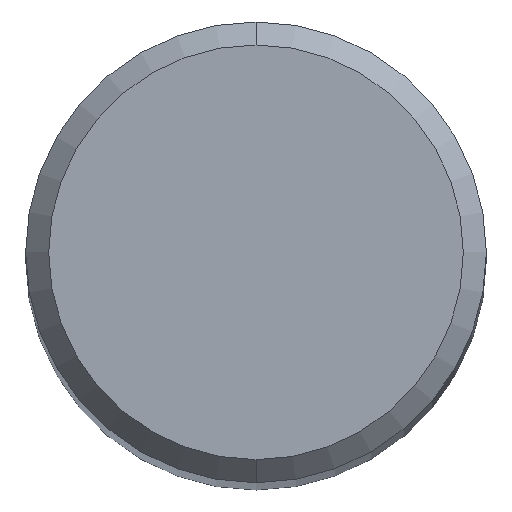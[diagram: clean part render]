
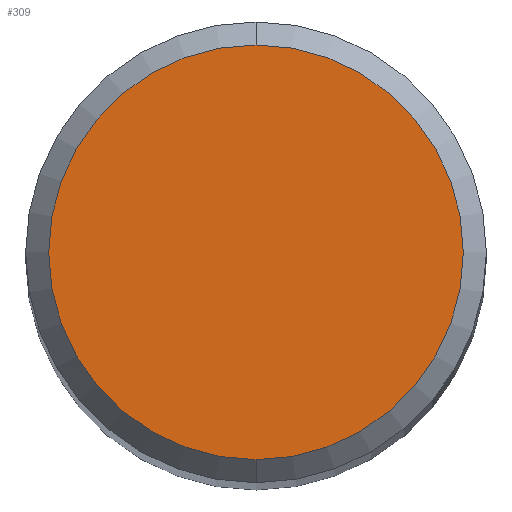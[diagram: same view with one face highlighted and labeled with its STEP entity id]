
A CAD part, top view. The second image highlights one B-rep face of the part: STEP entity #309.
In plain terms, the highlighted planar face has unit normal (0, 0, 1).
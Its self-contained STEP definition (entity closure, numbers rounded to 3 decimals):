
#309=ADVANCED_FACE('',(#659),#660,.T.);
#429=EDGE_CURVE('',#431,#495,#794,.T.);
#431=VERTEX_POINT('',#796);
#449=EDGE_CURVE('',#495,#431,#814,.T.);
#495=VERTEX_POINT('',#863);
#659=FACE_OUTER_BOUND('',#1172,.T.);
#660=PLANE('',#1173);
#794=CIRCLE('',#1419,3.6);
#796=CARTESIAN_POINT('',(0.,-3.6,0.0));
#814=CIRCLE('',#1460,3.6);
#863=CARTESIAN_POINT('',(0.0,3.6,0.0));
#1172=EDGE_LOOP('',(#1749,#1750));
#1173=AXIS2_PLACEMENT_3D('',#1751,#1752,#1753);
#1419=AXIS2_PLACEMENT_3D('',#1906,#1907,#1908);
#1460=AXIS2_PLACEMENT_3D('',#1922,#1923,#1924);
#1749=ORIENTED_EDGE('',*,*,#449,.F.);
#1750=ORIENTED_EDGE('',*,*,#429,.F.);
#1751=CARTESIAN_POINT('',(0.0,1.8,0.0));
#1752=DIRECTION('',(-0.0,0.0,1.0));
#1753=DIRECTION('',(0.0,-1.0,0.0));
#1906=CARTESIAN_POINT('',(0.0,0.0,0.0));
#1907=DIRECTION('',(0.0,0.0,-1.0));
#1908=DIRECTION('',(0.0,1.0,0.0));
#1922=CARTESIAN_POINT('',(0.0,0.0,0.0));
#1923=DIRECTION('',(0.0,0.0,-1.0));
#1924=DIRECTION('',(0.0,1.0,0.0));
